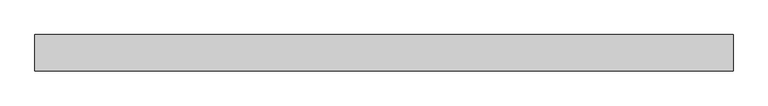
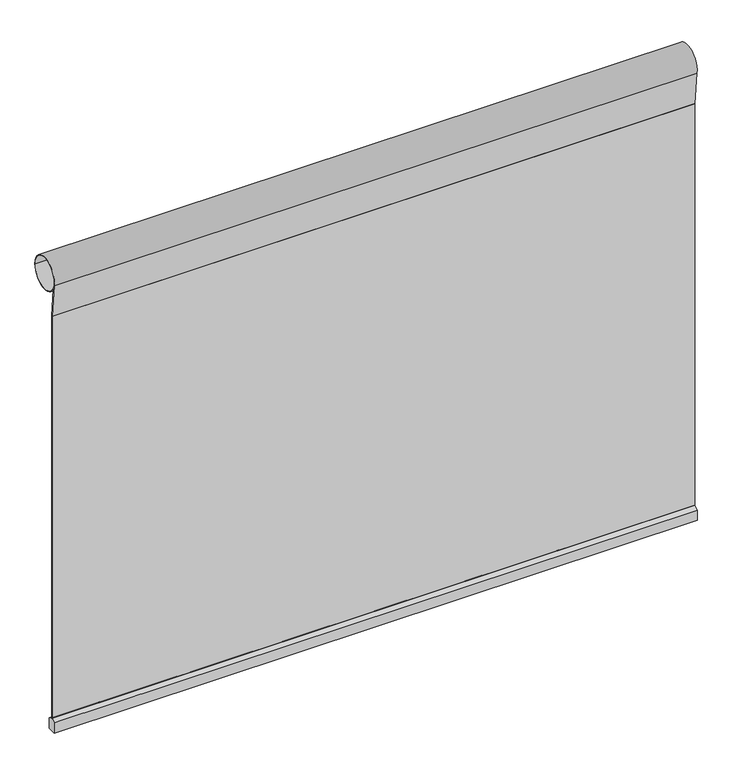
"""IFC4 building model written with IfcOpenShell, lengths in millimetres: proxy geometry, Renson_Camargue_Fixscreen : Renson_Camargue_Fixscreen."""

from ifc_helpers import new_model, si_unit, point, frame, frame_2d, origin, place, context, project, spatial, polyline, circle_curve, trimmed, segment, composite_curve, outline, extrude, source, transform, mapped, element, save


def generic_models_3550dacb(model_context):
    return source(origin(), model_context, "Body", "SweptSolid", [
        extrude(outline(polyline([(-15.0, 750.0), (-15.0, 787.0), (-1.5, 796.0), (1.5, 796.0), (15.0, 787.0), (15.0, 750.0), (-15.0, 750.0)])), frame((-1100.0, 0.0, 0.0), z_axis=(1.0, 0.0, 0.0), x_axis=(0.0, 1.0, 0.0)), (0.0, 0.0, 1.0), 2200.0),
        extrude(outline(composite_curve([segment(polyline([(-1.5, 2250.0), (-13.7636779, 2367.640466)]), True, "CONTINUOUS"), segment(trimmed(circle_curve(frame_2d((42.5, 2379.5)), 57.5), [point((-13.7636779, 2367.640466))], [point((-9.4252469, 2354.8014427))], False, "CARTESIAN"), True, "CONTINUOUS"), segment(polyline([(-9.4252469, 2354.8014427), (1.5, 2250.0), (-1.5, 2250.0)]), True, "CONTINUOUS")], self_intersect=False), holes=[composite_curve([segment(trimmed(circle_curve(frame_2d((42.5, 2379.5)), 55.5), [point((-13.0, 2379.5))], [point((98.0, 2379.5))], True, "CARTESIAN"), True, "CONTINUOUS"), segment(trimmed(circle_curve(frame_2d((42.5, 2379.5)), 55.5), [point((98.0, 2379.5))], [point((-13.0, 2379.5))], True, "CARTESIAN"), True, "CONTINUOUS")], self_intersect=False)]), frame((-1100.0, 0.0, 0.0), z_axis=(1.0, 0.0, 0.0), x_axis=(0.0, 1.0, 0.0)), (0.0, 0.0, 1.0), 2200.0),
        extrude(outline(polyline([(1100.0, 1.5), (1100.0, -1.5), (-1100.0, -1.5), (-1100.0, 1.5), (1100.0, 1.5)])), frame((0.0, 0.0, 796.0), z_axis=(0.0, 0.0, 1.0), x_axis=(1.0, 0.0, 0.0)), (0.0, 0.0, 1.0), 1454.0),
    ])


if __name__ == "__main__":
    model = new_model("IFC4")
    model_context = context("Model", 3, world=origin())
    ifc_project = project(units=[si_unit("LENGTHUNIT", "METRE", prefix="MILLI")], contexts=[model_context])
    site = spatial("IfcSite", under=ifc_project)
    building = spatial("IfcBuilding", under=site)
    placement = place(None, origin())
    generic_models_shape = generic_models_3550dacb(model_context)
    element("IfcBuildingElementProxy", 1, Name="Renson_Camargue_Fixscreen : Renson_Camargue_Fixscreen", ObjectType="Renson_Camargue_Fixscreen : Renson_Camargue_Fixscreen", at=placement, inside=building, context=model_context, shape_type="MappedRepresentation", body=[
        mapped(generic_models_shape, transform((0.0, 0.0, 0.0), x_axis=(1.0, 0.0, 0.0), y_axis=(0.0, 1.0, 0.0), z_axis=(0.0, 0.0, 1.0))),
    ])
    save(model, "model.ifc")
